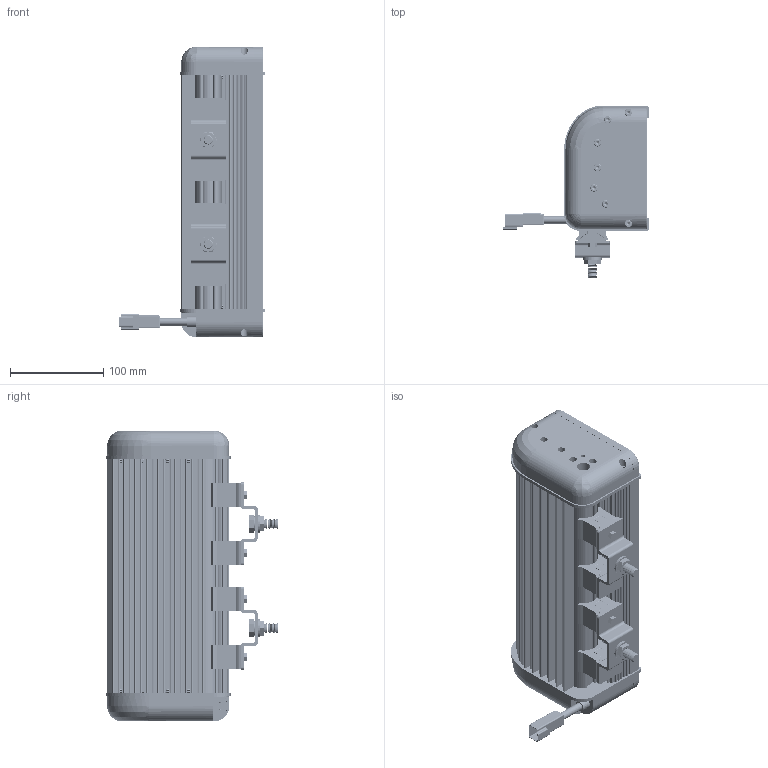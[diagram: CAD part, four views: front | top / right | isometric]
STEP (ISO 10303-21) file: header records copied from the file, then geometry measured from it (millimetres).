
FILE_DESCRIPTION (( 'STEP AP214' ), '1' );
FILE_NAME ('LEDLB-40X2E.STEP', '2015-06-03T19:20:41', ( '' ), ( '' ), 'SwSTEP 2.0', 'SolidWorks 2015', '' );
FILE_SCHEMA (( 'AUTOMOTIVE_DESIGN' ));
Length unit declared in the file: inch
Products named in the file (9): LEDLBX2 Side with Cord; LEDLBX2 Side; LEDLBX2 Middle Body Variable_40X2E; LEDLB-40X2E; LEDLB trunion; socket set screw flat point_ai_SSFLATSKT 0.3125-18x0.5-HX-N; socket head cap screw_ai_HX-SHCS 0.19-32x0.75x0.75-S; deutsch female dc04; LEDLB BULB
Assembly tree (78 placements, depth 2):
  LEDLB-40X2E
    LEDLBX2 Middle Body Variable_40X2E
    LEDLBX2 Side
    LEDLBX2 Side with Cord
    LEDLB BULB  x40
    deutsch female dc04
    socket head cap screw_ai_HX-SHCS 0.19-32x0.75x0.75-S  x14
    socket set screw flat point_ai_SSFLATSKT 0.3125-18x0.5-HX-N  x18
    LEDLB trunion  x2
Bounding box: 156.03 x 184.58 x 311.2 mm (x, y, z)
Volume: 2301647.8 mm3; surface area: 748486.7 mm2
Topology: 118 solids, 142 shells, 4244 faces, 10387 edges, 6507 vertices
Faces by surface type: cone 1608, cylinder 1372, plane 1040, bspline 184, torus 34, sphere 6
Entity records: 38691 total; most frequent: CARTESIAN_POINT 7787, DIRECTION 6062, ORIENTED_EDGE 5450, EDGE_CURVE 2771, AXIS2_PLACEMENT_3D 2269, VERTEX_POINT 1782, VECTOR 1524, LINE 1524
